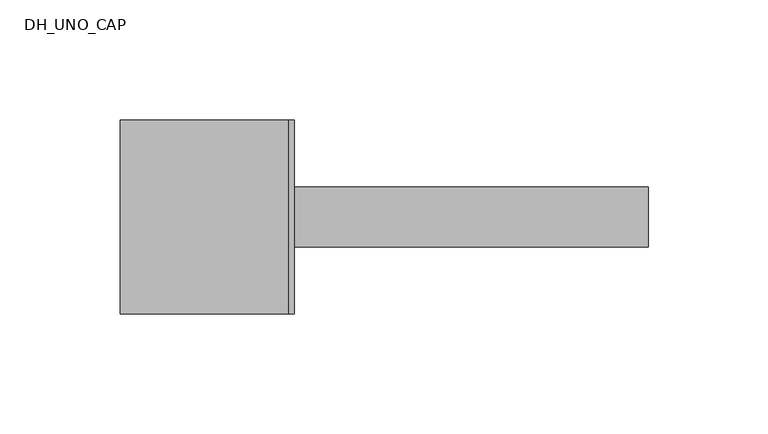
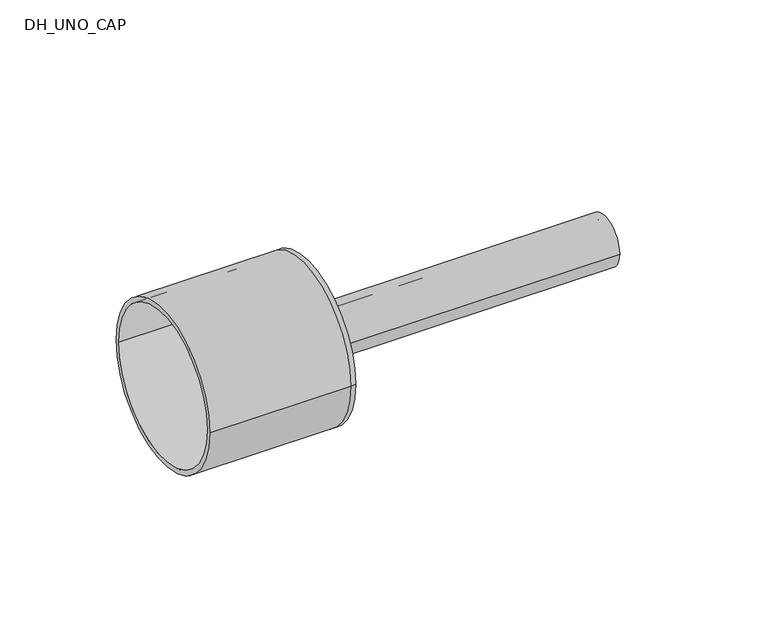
"""IFC4 building model written with IfcOpenShell, lengths in millimetres: pipe fitting geometry, DH_UNO_CAP : RAUTHERMEX UNO 7.4 DW - Solid Cap."""

from ifc_helpers import new_model, si_unit, point, frame, origin, origin_2d, place, context, project, spatial, polyline, circle_curve, trimmed, segment, composite_curve, outline, extrude, source, transform, mapped, element, save
from ifc_brep_helpers import plane_surface, cylinder_surface, revolved_surface, advanced_brep


def dh_uno_cap_0c939804(model_context):
    return source(origin(), model_context, "Body", "SolidModel", [
        extrude(outline(composite_curve([segment(trimmed(circle_curve(origin_2d(), 12.5), [point((-12.5, 0.0))], [point((12.5, 0.0))], False, "CARTESIAN"), True, "CONTINUOUS"), segment(trimmed(circle_curve(origin_2d(), 12.5), [point((12.5, 0.0))], [point((-12.5, 0.0))], False, "CARTESIAN"), True, "CONTINUOUS")], self_intersect=False), holes=[composite_curve([segment(trimmed(circle_curve(origin_2d(), 9.0), [point((-9.0, 0.0))], [point((9.0, 0.0))], True, "CARTESIAN"), True, "CONTINUOUS"), segment(trimmed(circle_curve(origin_2d(), 9.0), [point((9.0, 0.0))], [point((-9.0, 0.0))], True, "CARTESIAN"), True, "CONTINUOUS")], self_intersect=False)]), frame((0.0, 0.0, 0.0), z_axis=(1.0, 0.0, 0.0), x_axis=(0.0, 1.0, 0.0)), (0.0, 0.0, 1.0), 150.0),
        advanced_brep(
        [(-70.0, -40.5, 0.0), (-70.0, 40.5, 0.0), (-70.0, -38.0, 0.0), (-70.0, 38.0, 0.0), (0.0, -38.0, 0.0), (0.0, 38.0, 0.0), (0.0, -40.5, 0.0), (0.0, 40.5, 0.0), (0.0, 12.5, 0.0), (0.0, -12.5, 0.0), (2.5, -40.5, 0.0), (2.5, 40.5, 0.0), (2.5, -12.5, 0.0), (2.5, 12.5, 0.0)],
        [
            (0, 1, circle_curve(frame((-70.0, 0.0, 0.0), z_axis=(-1.0, 0.0, 0.0), x_axis=(0.0, 1.0, 0.0)), 40.5)),
            (1, 0, circle_curve(frame((-70.0, 0.0, 0.0), z_axis=(-1.0, 0.0, 0.0), x_axis=(0.0, 1.0, 0.0)), 40.5)),
            (2, 3, circle_curve(frame((-70.0, 0.0, 0.0), z_axis=(1.0, 0.0, 0.0), x_axis=(0.0, 1.0, 0.0)), 38.0)),
            (3, 2, circle_curve(frame((-70.0, 0.0, 0.0), z_axis=(1.0, 0.0, 0.0), x_axis=(0.0, 1.0, 0.0)), 38.0)),
            (2, 4),
            (4, 5, circle_curve(frame((0.0, 0.0, 0.0), z_axis=(1.0, 0.0, 0.0), x_axis=(0.0, 1.0, 0.0)), 38.0)),
            (5, 3),
            (5, 4, circle_curve(frame((0.0, 0.0, 0.0), z_axis=(1.0, 0.0, 0.0), x_axis=(0.0, 1.0, 0.0)), 38.0)),
            (0, 6),
            (6, 7, circle_curve(frame((0.0, 0.0, 0.0), z_axis=(-1.0, 0.0, 0.0), x_axis=(0.0, 1.0, 0.0)), 40.5)),
            (7, 1),
            (7, 6, circle_curve(frame((0.0, 0.0, 0.0), z_axis=(-1.0, 0.0, 0.0), x_axis=(0.0, 1.0, 0.0)), 40.5)),
            (8, 9, circle_curve(frame((0.0, 0.0, 0.0), z_axis=(1.0, 0.0, 0.0), x_axis=(0.0, 1.0, 0.0)), 12.5)),
            (9, 8, circle_curve(frame((0.0, 0.0, 0.0), z_axis=(1.0, 0.0, 0.0), x_axis=(0.0, 1.0, 0.0)), 12.5)),
            (10, 11, circle_curve(frame((2.5, 0.0, 0.0), z_axis=(1.0, 0.0, 0.0), x_axis=(0.0, 1.0, 0.0)), 40.5)),
            (11, 10, circle_curve(frame((2.5, 0.0, 0.0), z_axis=(1.0, 0.0, 0.0), x_axis=(0.0, 1.0, 0.0)), 40.5)),
            (12, 13, circle_curve(frame((2.5, 0.0, 0.0), z_axis=(-1.0, 0.0, 0.0), x_axis=(0.0, 1.0, 0.0)), 12.5)),
            (13, 12, circle_curve(frame((2.5, 0.0, 0.0), z_axis=(-1.0, 0.0, 0.0), x_axis=(0.0, 1.0, 0.0)), 12.5)),
            (11, 7),
            (6, 10),
            (8, 13),
            (12, 9),
        ],
        [
            plane_surface(frame((-70.0, 0.0, 0.0), z_axis=(-1.0, 0.0, 0.0), x_axis=(0.0, 0.0, 1.0))),
            revolved_surface(polyline([(0.0, 38.0, 0.0), (-70.0, 38.0, 0.0)]), (-70.0, 0.0, 0.0), (1.0, 0.0, 0.0)),
            cylinder_surface(frame((-70.0, 0.0, 0.0), z_axis=(-1.0, 0.0, 0.0), x_axis=(0.0, 1.0, 0.0)), 40.5),
            plane_surface(frame((0.0, 0.0, 0.0), z_axis=(-1.0, 0.0, 0.0), x_axis=(0.0, 0.0, 1.0))),
            plane_surface(frame((2.5, 0.0, 0.0), z_axis=(1.0, 0.0, 0.0), x_axis=(0.0, 0.0, 1.0))),
            cylinder_surface(frame((0.0, 0.0, 0.0), z_axis=(-1.0, 0.0, 0.0), x_axis=(0.0, 1.0, 0.0)), 40.5),
            revolved_surface(polyline([(0.0, 12.5, 0.0), (2.5, 12.5, 0.0)]), (0.0, 0.0, 0.0), (-1.0, 0.0, 0.0)),
        ],
        [
            (0, [[1, 2], [3, 4]]),
            (1, [[-3, 5, 6, 7]]),
            (1, [[-4, -7, 8, -5]]),
            (2, [[-1, 9, 10, 11]]),
            (2, [[-2, -11, 12, -9]]),
            (3, [[-6, -8], [13, 14]]),
            (4, [[15, 16], [17, 18]]),
            (5, [[-16, 19, -10, 20]]),
            (5, [[-15, -20, -12, -19]]),
            (6, [[21, -17, 22, -13]]),
            (6, [[-21, -14, -22, -18]]),
        ],
    ),
    ])


if __name__ == "__main__":
    model = new_model("IFC4")
    model_context = context("Model", 3, world=origin())
    ifc_project = project(units=[si_unit("LENGTHUNIT", "METRE", prefix="MILLI")], contexts=[model_context])
    site = spatial("IfcSite", under=ifc_project)
    building = spatial("IfcBuilding", under=site)
    placement = place(None, origin())
    dh_uno_cap_shape = dh_uno_cap_0c939804(model_context)
    element("IfcPipeFitting", 1, ObjectType="DH_UNO_CAP : RAUTHERMEX UNO 7.4 DW - Solid Cap", at=placement, inside=building, context=model_context, shape_type="MappedRepresentation", body=[
        mapped(dh_uno_cap_shape, transform((0.0, 0.0, 0.0), x_axis=(1.0, 0.0, 0.0), y_axis=(0.0, 1.0, 0.0), z_axis=(0.0, 0.0, 1.0))),
    ])
    save(model, "model.ifc")
